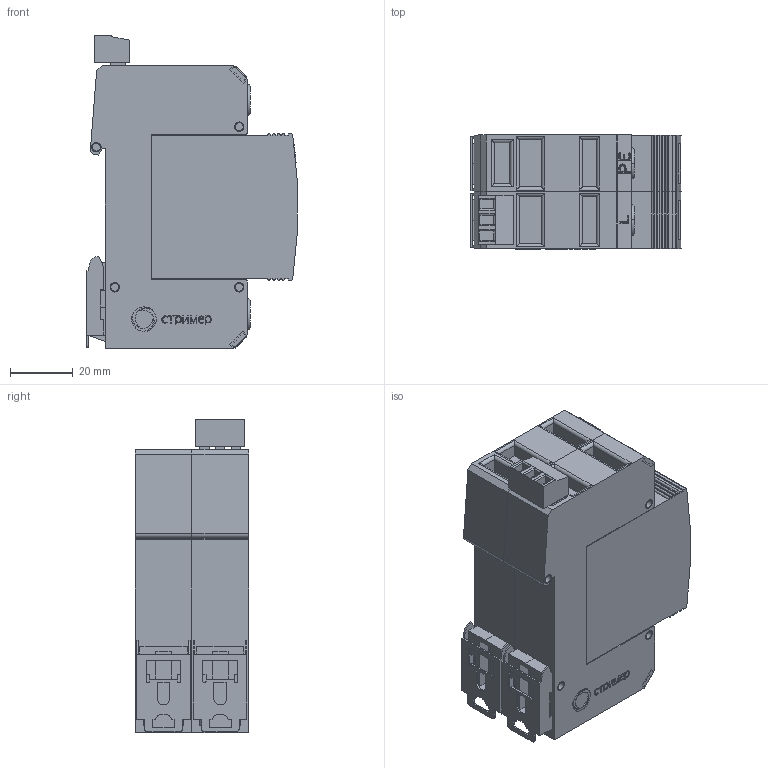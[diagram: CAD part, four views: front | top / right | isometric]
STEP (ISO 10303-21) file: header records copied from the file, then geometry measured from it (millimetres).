
FILE_DESCRIPTION(('TFLEX Exchange Step'),'2;1');
FILE_NAME('X2\041004400442\X0\.112_102.stp', '2022-07-15T15:51:10+03:00',('Pavel Oborin'),('Unknown organisation'),'TFLEX Exchange 2019.2','T-FLEX CAD','Unknown authorisation');
FILE_SCHEMA( ('AUTOMOTIVE_DESIGN { 1 0 10303 214 1 1 1 1 }') );
Length unit declared in the file: millimetre
Products named in the file (22): 0; Буква PE; Сигнализация:3; Сигнализация; Буква L; ВНЕШНИЙ МОДУЛЬ 18 без ушек:2; Планка:2; буква N:4; буква N:3; Корпус 18 без ушей:24; Корпус 18 без ушей:23; Корпус 18 без ушей:22; Корпус 18 без ушей:21; Корпус 18 без ушей:20; Корпус 18 без ушей:19; Корпус 18 без ушей:18; Корпус 18 без ушей:17; Корпус 18 без ушей:16; Корпус 18 без ушей:15; Корпус 18 без ушей:14; Корпус 18 без ушей:13; Арт.112_102
Assembly tree (39 placements, depth 3):
  Арт.112_102
    0
    Буква PE
    Сигнализация
      Сигнализация:3  x3
    Буква L
    ВНЕШНИЙ МОДУЛЬ 18 без ушек:2  x2
    Планка:2  x2
    буква N:4  x2
    буква N:3  x2
    Корпус 18 без ушей:24  x2
    Корпус 18 без ушей:23  x2
    Корпус 18 без ушей:22  x2
    Корпус 18 без ушей:21  x2
    Корпус 18 без ушей:20  x2
    Корпус 18 без ушей:19  x2
    Корпус 18 без ушей:18  x2
    Корпус 18 без ушей:17  x2
    Корпус 18 без ушей:16  x2
    Корпус 18 без ушей:15  x2
    Корпус 18 без ушей:14  x2
    Корпус 18 без ушей:13  x2
Bounding box: 66.98 x 36.1 x 99.68 mm (x, y, z)
Volume: 173892.1 mm3; surface area: 49785.9 mm2
Topology: 63 solids, 63 shells, 1043 faces, 2546 edges, 1659 vertices
Faces by surface type: plane 673, cylinder 264, bspline 92, torus 11, cone 3
Full cylindrical faces by diameter (mm): 1.6 x3, 3 x3
Entity records: 24239 total; most frequent: CARTESIAN_POINT 9438, ORIENTED_EDGE 2938, DIRECTION 2864, EDGE_CURVE 1469, VECTOR 1082, LINE 1082, VERTEX_POINT 953, AXIS2_PLACEMENT_3D 891
